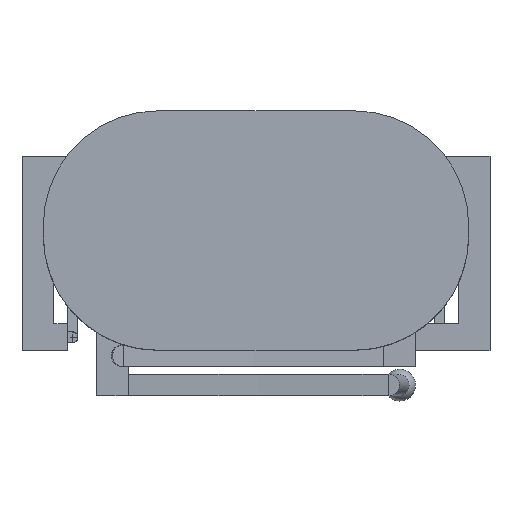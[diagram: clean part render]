
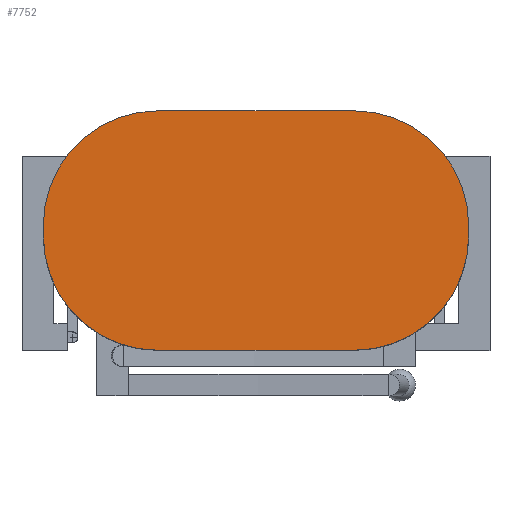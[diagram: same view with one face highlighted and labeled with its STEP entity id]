
A CAD part, top view. The second image highlights one B-rep face of the part: STEP entity #7752.
In plain terms, the highlighted planar face has unit normal (0, 0, 1).
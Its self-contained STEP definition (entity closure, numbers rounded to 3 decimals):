
#5286 = VERTEX_POINT('',#5287);
#5287 = CARTESIAN_POINT('',(-8.,53.8,73.));
#5293 = EDGE_CURVE('',#5286,#5294,#5296,.T.);
#5294 = VERTEX_POINT('',#5295);
#5295 = CARTESIAN_POINT('',(-3.7,49.5,73.));
#5296 = CIRCLE('',#5297,4.3);
#5297 = AXIS2_PLACEMENT_3D('',#5298,#5299,#5300);
#5298 = CARTESIAN_POINT('',(-3.7,53.8,73.));
#5299 = DIRECTION('',(0.,0.,1.));
#5300 = DIRECTION('',(-1.,0.,0.));
#5390 = EDGE_CURVE('',#5294,#5391,#5393,.T.);
#5391 = VERTEX_POINT('',#5392);
#5392 = CARTESIAN_POINT('',(3.7,49.5,73.));
#5393 = LINE('',#5394,#5395);
#5394 = CARTESIAN_POINT('',(-3.7,49.5,73.));
#5395 = VECTOR('',#5396,1.);
#5396 = DIRECTION('',(1.,0.,0.));
#5448 = EDGE_CURVE('',#5391,#5449,#5451,.T.);
#5449 = VERTEX_POINT('',#5450);
#5450 = CARTESIAN_POINT('',(8.,53.8,73.));
#5451 = CIRCLE('',#5452,4.3);
#5452 = AXIS2_PLACEMENT_3D('',#5453,#5454,#5455);
#5453 = CARTESIAN_POINT('',(3.7,53.8,73.));
#5454 = DIRECTION('',(-0.,0.,1.));
#5455 = DIRECTION('',(0.,-1.,0.));
#5552 = VERTEX_POINT('',#5553);
#5553 = CARTESIAN_POINT('',(-8.,54.2,73.));
#5559 = EDGE_CURVE('',#5552,#5286,#5560,.T.);
#5560 = LINE('',#5561,#5562);
#5561 = CARTESIAN_POINT('',(-8.,54.2,73.));
#5562 = VECTOR('',#5563,1.);
#5563 = DIRECTION('',(0.,-1.,0.));
#5600 = VERTEX_POINT('',#5601);
#5601 = CARTESIAN_POINT('',(-3.7,58.5,73.));
#5607 = EDGE_CURVE('',#5600,#5552,#5608,.T.);
#5608 = CIRCLE('',#5609,4.3);
#5609 = AXIS2_PLACEMENT_3D('',#5610,#5611,#5612);
#5610 = CARTESIAN_POINT('',(-3.7,54.2,73.));
#5611 = DIRECTION('',(0.,0.,1.));
#5612 = DIRECTION('',(0.,1.,0.));
#5681 = VERTEX_POINT('',#5682);
#5682 = CARTESIAN_POINT('',(3.7,58.5,73.));
#5688 = EDGE_CURVE('',#5681,#5600,#5689,.T.);
#5689 = LINE('',#5690,#5691);
#5690 = CARTESIAN_POINT('',(3.7,58.5,73.));
#5691 = VECTOR('',#5692,1.);
#5692 = DIRECTION('',(-1.,0.,0.));
#5729 = VERTEX_POINT('',#5730);
#5730 = CARTESIAN_POINT('',(8.,54.2,73.));
#5736 = EDGE_CURVE('',#5729,#5681,#5737,.T.);
#5737 = CIRCLE('',#5738,4.3);
#5738 = AXIS2_PLACEMENT_3D('',#5739,#5740,#5741);
#5739 = CARTESIAN_POINT('',(3.7,54.2,73.));
#5740 = DIRECTION('',(0.,-0.,1.));
#5741 = DIRECTION('',(1.,0.,0.));
#5754 = EDGE_CURVE('',#5449,#5729,#5755,.T.);
#5755 = LINE('',#5756,#5757);
#5756 = CARTESIAN_POINT('',(8.,53.8,73.));
#5757 = VECTOR('',#5758,1.);
#5758 = DIRECTION('',(0.,1.,0.));
#7752 = ADVANCED_FACE('',(#7753),#7763,.T.);
#7753 = FACE_BOUND('',#7754,.T.);
#7754 = EDGE_LOOP('',(#7755,#7756,#7757,#7758,#7759,#7760,#7761,#7762));
#7755 = ORIENTED_EDGE('',*,*,#5390,.T.);
#7756 = ORIENTED_EDGE('',*,*,#5448,.T.);
#7757 = ORIENTED_EDGE('',*,*,#5754,.T.);
#7758 = ORIENTED_EDGE('',*,*,#5736,.T.);
#7759 = ORIENTED_EDGE('',*,*,#5688,.T.);
#7760 = ORIENTED_EDGE('',*,*,#5607,.T.);
#7761 = ORIENTED_EDGE('',*,*,#5559,.T.);
#7762 = ORIENTED_EDGE('',*,*,#5293,.T.);
#7763 = PLANE('',#7764);
#7764 = AXIS2_PLACEMENT_3D('',#7765,#7766,#7767);
#7765 = CARTESIAN_POINT('',(0.,54.,73.));
#7766 = DIRECTION('',(0.,0.,1.));
#7767 = DIRECTION('',(1.,0.,0.));
